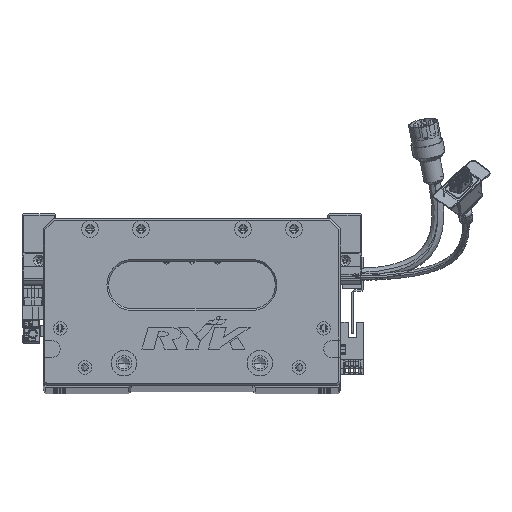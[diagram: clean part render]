
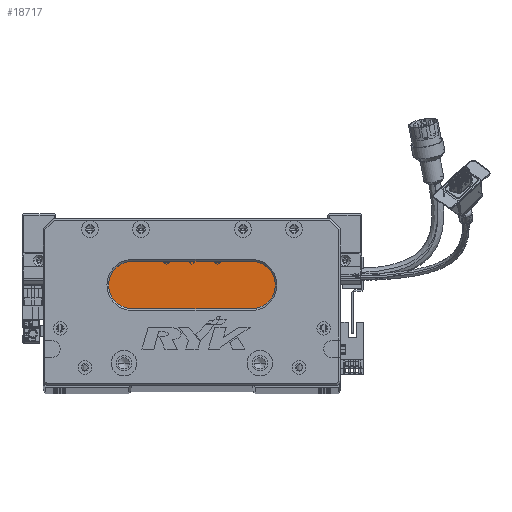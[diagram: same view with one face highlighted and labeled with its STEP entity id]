
A CAD part, top view. The second image highlights one B-rep face of the part: STEP entity #18717.
In plain terms, the highlighted planar face has unit normal (0, 0, 1) as drawn and (0, 0, -1) by its records, which use the part's own axes.
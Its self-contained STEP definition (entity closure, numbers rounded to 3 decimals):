
#2303 = DIRECTION ( 'NONE',  ( 0., 0., -1. ) ) ;
#2460 = DIRECTION ( 'NONE',  ( -1., 0., 0. ) ) ;
#5248 = EDGE_CURVE ( 'NONE', #90460, #46419, #24047, .T. ) ;
#6096 = CIRCLE ( 'NONE', #36982, 14. ) ;
#10285 = VERTEX_POINT ( 'NONE', #112368 ) ;
#11172 = CIRCLE ( 'NONE', #68640, 14. ) ;
#11868 = DIRECTION ( 'NONE',  ( -1., 0., 0. ) ) ;
#18717 = ADVANCED_FACE ( 'NONE', ( #67465 ), #111315, .T. ) ;
#21664 = DIRECTION ( 'NONE',  ( -1., 0., 0. ) ) ;
#24047 = CIRCLE ( 'NONE', #111553, 14. ) ;
#24427 = CARTESIAN_POINT ( 'NONE',  ( 122.5, 73., 18. ) ) ;
#26259 = AXIS2_PLACEMENT_3D ( 'NONE', #74224, #55873, #2460 ) ;
#28691 = EDGE_CURVE ( 'NONE', #10285, #30712, #6096, .T. ) ;
#30712 = VERTEX_POINT ( 'NONE', #105107 ) ;
#30905 = DIRECTION ( 'NONE',  ( -1., 0., 0. ) ) ;
#34761 = VERTEX_POINT ( 'NONE', #43462 ) ;
#36982 = AXIS2_PLACEMENT_3D ( 'NONE', #112149, #84673, #56343 ) ;
#41195 = CARTESIAN_POINT ( 'NONE',  ( 52.5, 45., 18. ) ) ;
#41627 = DIRECTION ( 'NONE',  ( 1., 0., 0. ) ) ;
#41699 = ORIENTED_EDGE ( 'NONE', *, *, #28691, .T. ) ;
#43462 = CARTESIAN_POINT ( 'NONE',  ( 52.5, 73., 18. ) ) ;
#46419 = VERTEX_POINT ( 'NONE', #80181 ) ;
#51508 = EDGE_CURVE ( 'NONE', #30712, #90460, #65393, .T. ) ;
#55555 = EDGE_LOOP ( 'NONE', ( #41699, #91312, #74617, #104727, #81100 ) ) ;
#55873 = DIRECTION ( 'NONE',  ( 0., 0., -1. ) ) ;
#56343 = DIRECTION ( 'NONE',  ( -1., 0., 0. ) ) ;
#59315 = LINE ( 'NONE', #24427, #83614 ) ;
#61378 = EDGE_CURVE ( 'NONE', #46419, #34761, #11172, .T. ) ;
#65393 = LINE ( 'NONE', #86255, #81089 ) ;
#65652 = CARTESIAN_POINT ( 'NONE',  ( 52.5, 59., 18. ) ) ;
#66276 = DIRECTION ( 'NONE',  ( 0., 0., -1. ) ) ;
#67465 = FACE_OUTER_BOUND ( 'NONE', #55555, .T. ) ;
#68640 = AXIS2_PLACEMENT_3D ( 'NONE', #65652, #2303, #11868 ) ;
#74224 = CARTESIAN_POINT ( 'NONE',  ( 122.5, 59., 18. ) ) ;
#74617 = ORIENTED_EDGE ( 'NONE', *, *, #5248, .T. ) ;
#76659 = CARTESIAN_POINT ( 'NONE',  ( 52.5, 59., 18. ) ) ;
#80181 = CARTESIAN_POINT ( 'NONE',  ( 38.5, 59., 18. ) ) ;
#81089 = VECTOR ( 'NONE', #30905, 1000. ) ;
#81100 = ORIENTED_EDGE ( 'NONE', *, *, #85926, .T. ) ;
#83614 = VECTOR ( 'NONE', #41627, 1000. ) ;
#84673 = DIRECTION ( 'NONE',  ( 0., 0., -1. ) ) ;
#85926 = EDGE_CURVE ( 'NONE', #34761, #10285, #59315, .T. ) ;
#86255 = CARTESIAN_POINT ( 'NONE',  ( 122.5, 45., 18. ) ) ;
#90460 = VERTEX_POINT ( 'NONE', #41195 ) ;
#91312 = ORIENTED_EDGE ( 'NONE', *, *, #51508, .T. ) ;
#104727 = ORIENTED_EDGE ( 'NONE', *, *, #61378, .T. ) ;
#105107 = CARTESIAN_POINT ( 'NONE',  ( 122.5, 45., 18. ) ) ;
#111315 = PLANE ( 'NONE',  #26259 ) ;
#111553 = AXIS2_PLACEMENT_3D ( 'NONE', #76659, #66276, #21664 ) ;
#112149 = CARTESIAN_POINT ( 'NONE',  ( 122.5, 59., 18. ) ) ;
#112368 = CARTESIAN_POINT ( 'NONE',  ( 122.5, 73., 18. ) ) ;
